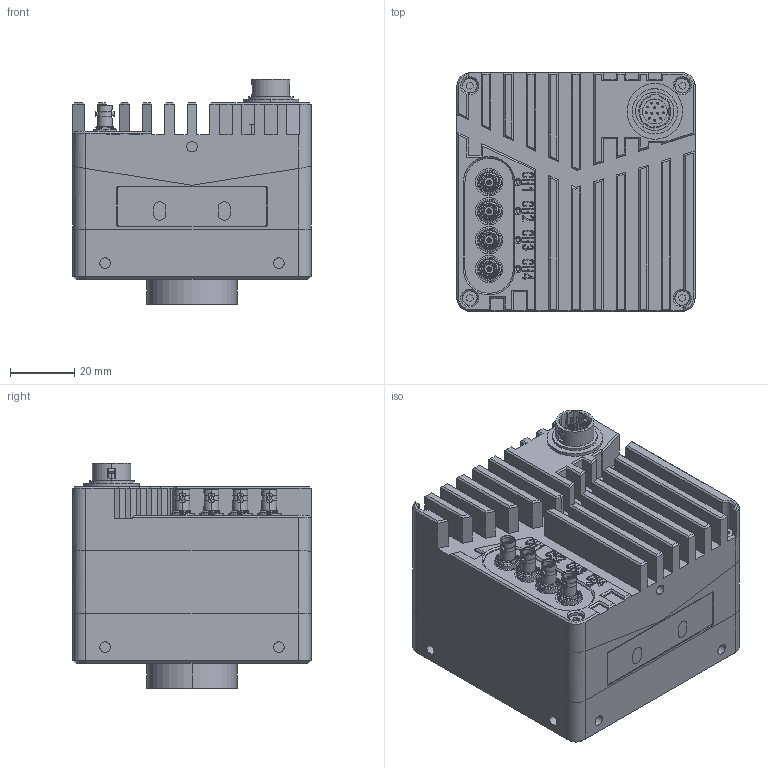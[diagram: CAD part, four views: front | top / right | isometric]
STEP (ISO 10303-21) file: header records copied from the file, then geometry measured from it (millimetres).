
FILE_DESCRIPTION (( 'STEP AP203' ), '1' );
FILE_NAME ('mars_hs_cxp_74_74_(c-mount)_user_s1.0.3.STEP', '2023-09-14T02:22:43', ( '' ), ( '' ), 'SwSTEP 2.0', 'SolidWorks 2016', '' );
FILE_SCHEMA (( 'CONFIG_CONTROL_DESIGN' ));
Length unit declared in the file: millimetre
Products named in the file (1): mars_hs_cxp_74_74_(c-mount)_user_s1.0.3
Bounding box: 74 x 74 x 70.22 mm (x, y, z)
Volume: 203600.5 mm3; surface area: 82088.1 mm2
Topology: 48 solids, 56 shells, 2516 faces, 6428 edges, 4207 vertices
Faces by surface type: plane 1411, cylinder 716, bspline 245, cone 140, torus 4
Entity records: 130342 total; most frequent: CARTESIAN_POINT 70638, ORIENTED_EDGE 12848, DIRECTION 11403, EDGE_CURVE 6424, VERTEX_POINT 4203, LINE 4041, VECTOR 4041, AXIS2_PLACEMENT_3D 3681
